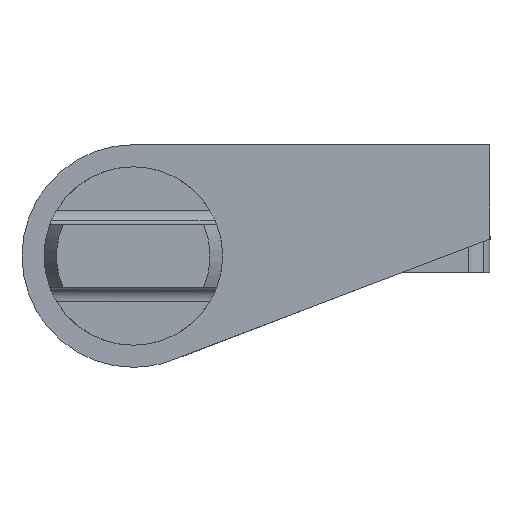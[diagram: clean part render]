
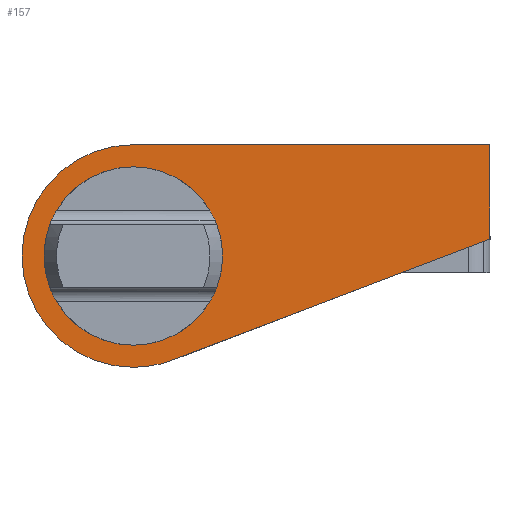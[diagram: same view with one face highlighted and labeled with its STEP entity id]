
A CAD part, left-side view. The second image highlights one B-rep face of the part: STEP entity #157.
In plain terms, the highlighted planar face has unit normal (-1, 0, 0).
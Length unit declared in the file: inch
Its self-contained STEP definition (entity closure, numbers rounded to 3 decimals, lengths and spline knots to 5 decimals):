
#157=ADVANCED_FACE('',(#356,#357),#358,.F.);
#356=FACE_OUTER_BOUND('',#623,.T.);
#357=FACE_BOUND('',#624,.T.);
#358=PLANE('',#625);
#623=EDGE_LOOP('',(#988,#989,#990,#991,#992));
#624=EDGE_LOOP('',(#993,#994));
#625=AXIS2_PLACEMENT_3D('',#995,#996,#997);
#988=ORIENTED_EDGE('',*,*,#1574,.T.);
#989=ORIENTED_EDGE('',*,*,#1638,.T.);
#990=ORIENTED_EDGE('',*,*,#1639,.T.);
#991=ORIENTED_EDGE('',*,*,#1640,.T.);
#992=ORIENTED_EDGE('',*,*,#1641,.T.);
#993=ORIENTED_EDGE('',*,*,#1642,.T.);
#994=ORIENTED_EDGE('',*,*,#1643,.T.);
#995=CARTESIAN_POINT('',(-3.65207,-0.12538,0.02138));
#996=DIRECTION('',(1.0,0.0,0.));
#997=DIRECTION('',(0.,0.0,-1.0));
#1574=EDGE_CURVE('',#1893,#1891,#1894,.T.);
#1638=EDGE_CURVE('',#1891,#2001,#2002,.T.);
#1639=EDGE_CURVE('',#2001,#2003,#2004,.T.);
#1640=EDGE_CURVE('',#2003,#2005,#2006,.T.);
#1641=EDGE_CURVE('',#2005,#1893,#2007,.T.);
#1642=EDGE_CURVE('',#2008,#2009,#2010,.T.);
#1643=EDGE_CURVE('',#2009,#2008,#2011,.T.);
#1891=VERTEX_POINT('',#2378);
#1893=VERTEX_POINT('',#2381);
#1894=CIRCLE('',#2382,0.156);
#2001=VERTEX_POINT('',#2587);
#2002=CIRCLE('',#2588,0.156);
#2003=VERTEX_POINT('',#2589);
#2004=LINE('',#2590,#2591);
#2005=VERTEX_POINT('',#2592);
#2006=LINE('',#2593,#2594);
#2007=LINE('',#2595,#2596);
#2008=VERTEX_POINT('',#2597);
#2009=VERTEX_POINT('',#2598);
#2010=CIRCLE('',#2599,0.095);
#2011=CIRCLE('',#2600,0.095);
#2378=CARTESIAN_POINT('',(-3.65207,0.,-0.156));
#2381=CARTESIAN_POINT('',(-3.65207,0.,0.156));
#2382=AXIS2_PLACEMENT_3D('',#2961,#2962,#2963);
#2587=CARTESIAN_POINT('',(-3.65207,-0.05556,-0.14577));
#2588=AXIS2_PLACEMENT_3D('',#3051,#3052,#3053);
#2589=CARTESIAN_POINT('',(-3.65207,-0.5,0.02362));
#2590=CARTESIAN_POINT('',(-3.65207,-0.5,0.02362));
#2591=VECTOR('',#3054,0.3937);
#2592=CARTESIAN_POINT('',(-3.65207,-0.5,0.156));
#2593=CARTESIAN_POINT('',(-3.65207,-0.5,0.156));
#2594=VECTOR('',#3055,0.3937);
#2595=CARTESIAN_POINT('',(-3.65207,0.,0.156));
#2596=VECTOR('',#3056,0.3937);
#2597=CARTESIAN_POINT('',(-3.65207,0.,-0.095));
#2598=CARTESIAN_POINT('',(-3.65207,0.,0.095));
#2599=AXIS2_PLACEMENT_3D('',#3057,#3058,#3059);
#2600=AXIS2_PLACEMENT_3D('',#3060,#3061,#3062);
#2961=CARTESIAN_POINT('',(-3.65207,0.,0.));
#2962=DIRECTION('',(-1.0,-0.0,0.));
#2963=DIRECTION('',(0.,0.0,-1.0));
#3051=CARTESIAN_POINT('',(-3.65207,0.,0.));
#3052=DIRECTION('',(-1.0,-0.0,0.));
#3053=DIRECTION('',(0.,0.0,-1.0));
#3054=DIRECTION('',(0.,-0.934,0.356));
#3055=DIRECTION('',(0.,0.0,1.0));
#3056=DIRECTION('',(0.,1.0,0.));
#3057=CARTESIAN_POINT('',(-3.65207,0.,0.));
#3058=DIRECTION('',(1.0,0.0,0.));
#3059=DIRECTION('',(0.,0.0,1.0));
#3060=CARTESIAN_POINT('',(-3.65207,0.,0.));
#3061=DIRECTION('',(1.0,0.0,0.));
#3062=DIRECTION('',(0.,0.0,1.0));
